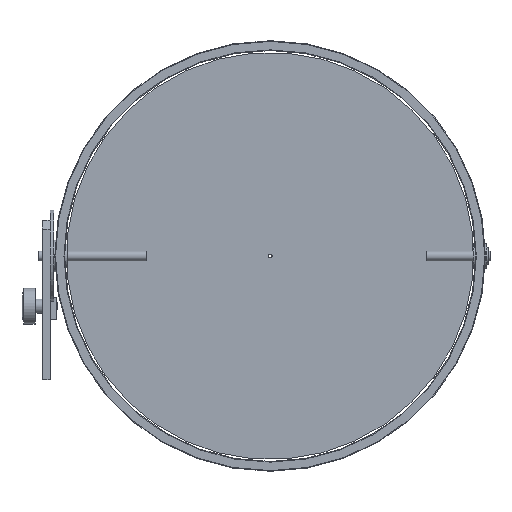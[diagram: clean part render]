
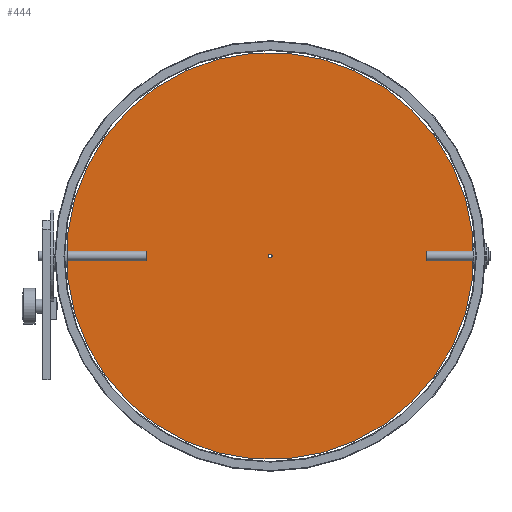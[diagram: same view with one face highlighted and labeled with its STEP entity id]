
A CAD part, left-side view. The second image highlights one B-rep face of the part: STEP entity #444.
In plain terms, the highlighted planar face has unit normal (-1, 0, 0).
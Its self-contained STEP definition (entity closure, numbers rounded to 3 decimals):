
#99=LINE('',#1983,#141);
#104=LINE('',#1997,#146);
#141=VECTOR('',#1560,1.);
#146=VECTOR('',#1573,1.);
#326=FACE_BOUND('',#633,.T.);
#327=FACE_BOUND('',#634,.T.);
#328=FACE_BOUND('',#635,.T.);
#329=FACE_BOUND('',#636,.T.);
#330=FACE_BOUND('',#637,.T.);
#331=FACE_BOUND('',#638,.T.);
#332=FACE_BOUND('',#639,.T.);
#333=FACE_BOUND('',#640,.T.);
#444=ADVANCED_FACE('',(#326,#327,#328,#329,#330,#331,#332,#333),#503,.T.);
#503=PLANE('',#1365);
#633=EDGE_LOOP('',(#817,#818,#819,#820));
#634=EDGE_LOOP('',(#821));
#635=EDGE_LOOP('',(#822));
#636=EDGE_LOOP('',(#823));
#637=EDGE_LOOP('',(#824));
#638=EDGE_LOOP('',(#825));
#639=EDGE_LOOP('',(#826));
#640=EDGE_LOOP('',(#827));
#817=ORIENTED_EDGE('',*,*,#1133,.T.);
#818=ORIENTED_EDGE('',*,*,#1112,.T.);
#819=ORIENTED_EDGE('',*,*,#1116,.T.);
#820=ORIENTED_EDGE('',*,*,#1119,.T.);
#821=ORIENTED_EDGE('',*,*,#1130,.T.);
#822=ORIENTED_EDGE('',*,*,#1128,.F.);
#823=ORIENTED_EDGE('',*,*,#1126,.F.);
#824=ORIENTED_EDGE('',*,*,#1124,.F.);
#825=ORIENTED_EDGE('',*,*,#1122,.F.);
#826=ORIENTED_EDGE('',*,*,#1120,.F.);
#827=ORIENTED_EDGE('',*,*,#1134,.T.);
#1005=VERTEX_POINT('',#1982);
#1006=VERTEX_POINT('',#1984);
#1008=VERTEX_POINT('',#1990);
#1010=VERTEX_POINT('',#1996);
#1011=VERTEX_POINT('',#2000);
#1013=VERTEX_POINT('',#2005);
#1015=VERTEX_POINT('',#2010);
#1017=VERTEX_POINT('',#2015);
#1019=VERTEX_POINT('',#2020);
#1021=VERTEX_POINT('',#2025);
#1023=VERTEX_POINT('',#2033);
#1112=EDGE_CURVE('',#1006,#1005,#99,.T.);
#1116=EDGE_CURVE('',#1005,#1008,#1230,.T.);
#1119=EDGE_CURVE('',#1008,#1010,#104,.T.);
#1120=EDGE_CURVE('',#1011,#1011,#1231,.T.);
#1122=EDGE_CURVE('',#1013,#1013,#1233,.T.);
#1124=EDGE_CURVE('',#1015,#1015,#1235,.T.);
#1126=EDGE_CURVE('',#1017,#1017,#1237,.T.);
#1128=EDGE_CURVE('',#1019,#1019,#1239,.T.);
#1130=EDGE_CURVE('',#1021,#1021,#1241,.T.);
#1133=EDGE_CURVE('',#1010,#1006,#1244,.T.);
#1134=EDGE_CURVE('',#1023,#1023,#1245,.T.);
#1230=CIRCLE('',#1338,312.);
#1231=CIRCLE('',#1341,3.);
#1233=CIRCLE('',#1344,3.);
#1235=CIRCLE('',#1347,3.);
#1237=CIRCLE('',#1350,3.);
#1239=CIRCLE('',#1353,3.);
#1241=CIRCLE('',#1356,3.);
#1244=CIRCLE('',#1360,312.);
#1245=CIRCLE('',#1362,3.);
#1338=AXIS2_PLACEMENT_3D('',#1991,#1567,#1568);
#1341=AXIS2_PLACEMENT_3D('',#1999,#1576,#1577);
#1344=AXIS2_PLACEMENT_3D('',#2004,#1582,#1583);
#1347=AXIS2_PLACEMENT_3D('',#2009,#1588,#1589);
#1350=AXIS2_PLACEMENT_3D('',#2014,#1594,#1595);
#1353=AXIS2_PLACEMENT_3D('',#2019,#1600,#1601);
#1356=AXIS2_PLACEMENT_3D('',#2024,#1606,#1607);
#1360=AXIS2_PLACEMENT_3D('',#2030,#1614,#1615);
#1362=AXIS2_PLACEMENT_3D('',#2032,#1618,#1619);
#1365=AXIS2_PLACEMENT_3D('',#2037,#1624,#1625);
#1560=DIRECTION('',(0.,0.,1.));
#1567=DIRECTION('',(-1.,0.,0.));
#1568=DIRECTION('',(0.,0.,1.));
#1573=DIRECTION('',(0.,0.,-1.));
#1576=DIRECTION('',(-1.,0.,0.));
#1577=DIRECTION('',(0.,0.,1.));
#1582=DIRECTION('',(-1.,0.,0.));
#1583=DIRECTION('',(0.,0.,1.));
#1588=DIRECTION('',(-1.,0.,0.));
#1589=DIRECTION('',(0.,0.,1.));
#1594=DIRECTION('',(-1.,0.,0.));
#1595=DIRECTION('',(0.,0.,1.));
#1600=DIRECTION('',(-1.,0.,0.));
#1601=DIRECTION('',(0.,0.,1.));
#1606=DIRECTION('',(1.,0.,0.));
#1607=DIRECTION('',(0.,0.,1.));
#1614=DIRECTION('',(-1.,0.,0.));
#1615=DIRECTION('',(0.,0.,1.));
#1618=DIRECTION('',(1.,0.,0.));
#1619=DIRECTION('',(0.,0.,1.));
#1624=DIRECTION('',(-1.,0.,0.));
#1625=DIRECTION('',(0.,0.,1.));
#1982=CARTESIAN_POINT('',(-1.2,-419.,160.27));
#1983=CARTESIAN_POINT('',(-1.2,-419.,89.73));
#1984=CARTESIAN_POINT('',(-1.2,-419.,89.73));
#1990=CARTESIAN_POINT('',(-1.2,201.,160.27));
#1991=CARTESIAN_POINT('',(-1.2,-109.,125.));
#1996=CARTESIAN_POINT('',(-1.2,201.,89.73));
#1997=CARTESIAN_POINT('',(-1.2,201.,160.27));
#1999=CARTESIAN_POINT('',(-1.2,171.,125.));
#2000=CARTESIAN_POINT('',(-1.2,171.,128.));
#2004=CARTESIAN_POINT('',(-1.2,-109.,125.));
#2005=CARTESIAN_POINT('',(-1.2,-109.,128.));
#2009=CARTESIAN_POINT('',(-1.2,96.,125.));
#2010=CARTESIAN_POINT('',(-1.2,96.,128.));
#2014=CARTESIAN_POINT('',(-1.2,121.,125.));
#2015=CARTESIAN_POINT('',(-1.2,121.,128.));
#2019=CARTESIAN_POINT('',(-1.2,146.,125.));
#2020=CARTESIAN_POINT('',(-1.2,146.,128.));
#2024=CARTESIAN_POINT('',(-1.2,-364.,125.));
#2025=CARTESIAN_POINT('',(-1.2,-364.,128.));
#2030=CARTESIAN_POINT('',(-1.2,-109.,125.));
#2032=CARTESIAN_POINT('',(-1.2,-389.,125.));
#2033=CARTESIAN_POINT('',(-1.2,-389.,128.));
#2037=CARTESIAN_POINT('',(-1.2,-109.,125.));
